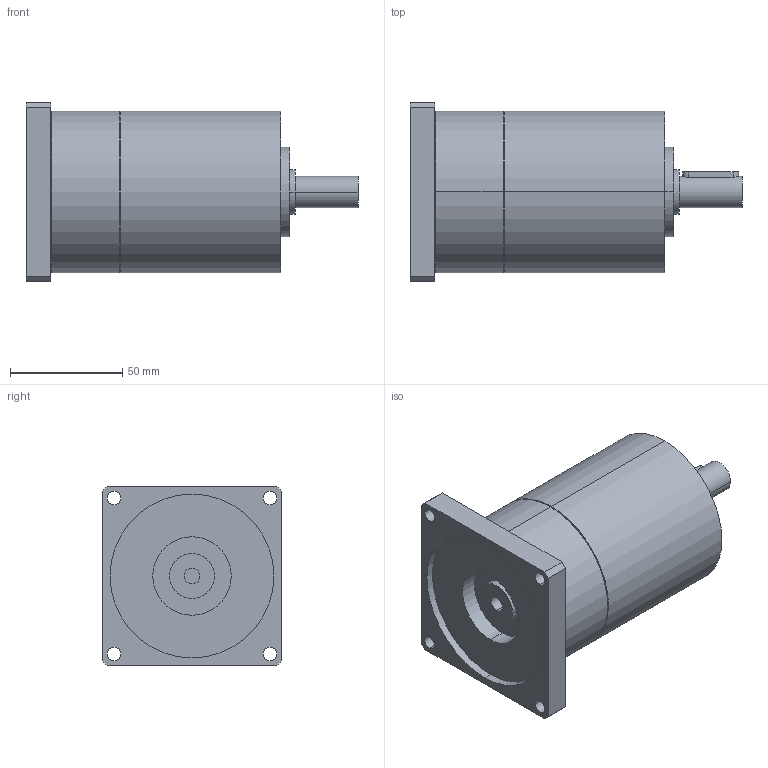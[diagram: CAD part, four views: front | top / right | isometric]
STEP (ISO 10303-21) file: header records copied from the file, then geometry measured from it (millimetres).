
FILE_DESCRIPTION(('CoCreate Modeling STEP Export'),'2;1');
FILE_NAME('GPT75_ig-9-12-16-20-25-28-35-40-50-70-100_14_B14T_7_P06.stp','2014-08-27T13:23:10',(''),(''),'CoCreate Modeling STEP processor for AP214 (Solid Model)','CoCreate Modeling 16.00C 25-Feb-2009 (C) Parametric Technology GmbH','');
FILE_SCHEMA(('AUTOMOTIVE_DESIGN { 1 0 10303 214 1 1 1 1 }'));
Length unit declared in the file: millimetre
Products named in the file (2): GPT75_ig-9-12-16-20-25-28-35-40-50-70-100_14_B14T_7_P06
Assembly tree (1 placements, depth 2):
  GPT75_ig-9-12-16-20-25-28-35-40-50-70-100_14_B14T_7_P06
    GPT75_ig-9-12-16-20-25-28-35-40-50-70-100_14_B14T_7_P06
Bounding box: 148 x 80 x 80 mm (x, y, z)
Volume: 473672.7 mm3; surface area: 45736.5 mm2
Topology: 1 solids, 1 shells, 69 faces, 166 edges, 113 vertices
Faces by surface type: cylinder 42, plane 23, cone 4
Entity records: 2161 total; most frequent: CARTESIAN_POINT 664, ORIENTED_EDGE 332, DIRECTION 262, EDGE_CURVE 166, VERTEX_POINT 113, AXIS2_PLACEMENT_3D 99, EDGE_LOOP 91, FACE_OUTER_BOUND 69
